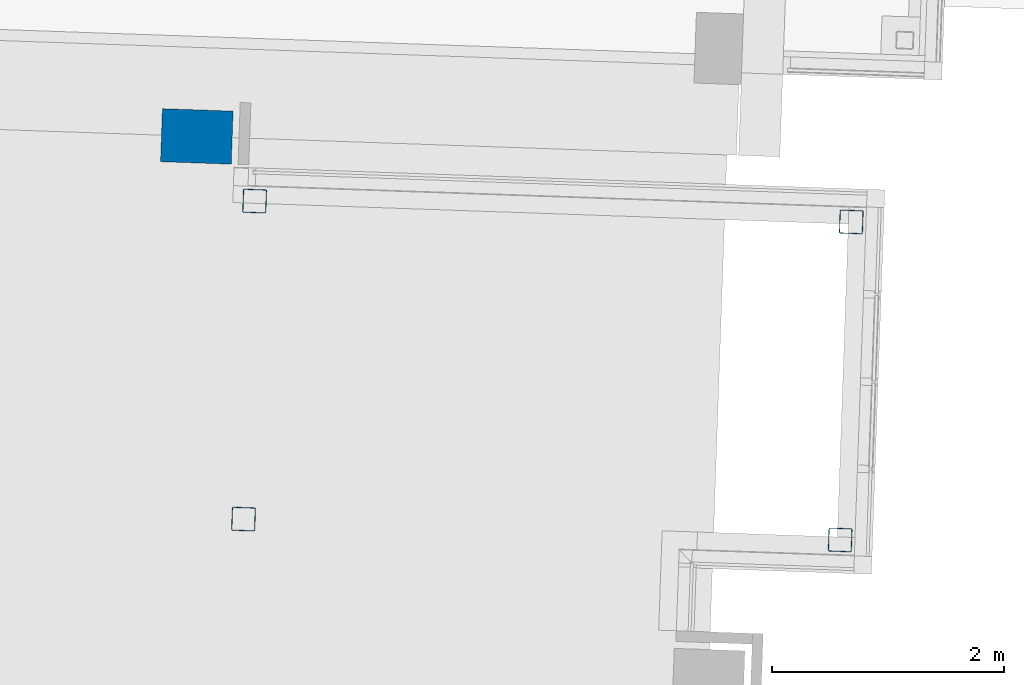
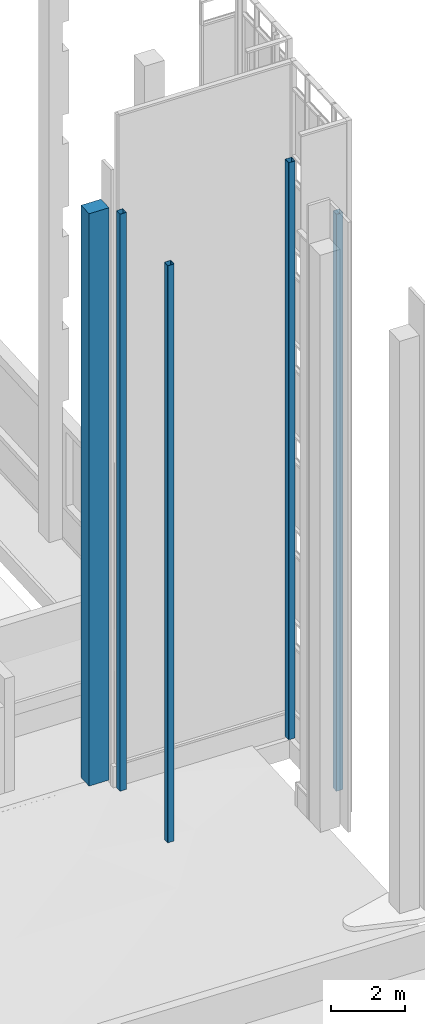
# One storey, part 6 of 44: 5 columns.
"""IFC2X3 building model written with IfcOpenShell, lengths in feet."""

from ifc_helpers import new_model, entity, si_unit, converted_unit, derived_unit, direction, frame, frame_2d, origin, origin_2d_with_axis, place, context, subcontext, project, spatial, polyline, circle_curve, parameter, trimmed, segment, composite_curve, rectangle, outline, extrude, source, transform, mapped, material, type_object, type_shapes, element, save


model = new_model("IFC2X3")

# Units and contexts
model_context = context("Model", 3, precision=0.0001, world=origin(), true_north=direction((0.999390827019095, 0.0348994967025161)))
body_context = subcontext(model_context, "Body", "Model", "MODEL_VIEW")
ifc_project = project(units=[converted_unit("LENGTHUNIT", "FOOT", entity("IfcRatioMeasure", 0.3048), si_unit("LENGTHUNIT", "METRE"), dimensions=[1, 0, 0, 0, 0, 0, 0]), converted_unit("AREAUNIT", "SQUARE FOOT", entity("IfcRatioMeasure", 0.09290304), si_unit("AREAUNIT", "SQUARE_METRE"), dimensions=[2, 0, 0, 0, 0, 0, 0]), converted_unit("VOLUMEUNIT", "CUBIC FOOT", entity("IfcRatioMeasure", 0.028316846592), si_unit("VOLUMEUNIT", "CUBIC_METRE"), dimensions=[3, 0, 0, 0, 0, 0, 0]), converted_unit("PLANEANGLEUNIT", "DEGREE", entity("IfcRatioMeasure", 0.0174532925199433), si_unit("PLANEANGLEUNIT", "RADIAN"), dimensions=[0, 0, 0, 0, 0, 0, 0]), si_unit("MASSUNIT", "GRAM", prefix="KILO"), si_unit("TIMEUNIT", "SECOND"), si_unit("FREQUENCYUNIT", "HERTZ"), si_unit("THERMODYNAMICTEMPERATUREUNIT", "DEGREE_CELSIUS"), derived_unit("THERMALTRANSMITTANCEUNIT", [(si_unit("MASSUNIT", "GRAM", prefix="KILO"), 1), (si_unit("THERMODYNAMICTEMPERATUREUNIT", "KELVIN"), -1), (si_unit("TIMEUNIT", "SECOND"), -3)]), derived_unit("VOLUMETRICFLOWRATEUNIT", [(si_unit("LENGTHUNIT", "METRE"), 3), (si_unit("TIMEUNIT", "SECOND"), -1)]), si_unit("ELECTRICCURRENTUNIT", "AMPERE"), si_unit("ELECTRICVOLTAGEUNIT", "VOLT"), si_unit("POWERUNIT", "WATT"), si_unit("FORCEUNIT", "NEWTON"), si_unit("ILLUMINANCEUNIT", "LUX"), si_unit("LUMINOUSFLUXUNIT", "LUMEN"), si_unit("LUMINOUSINTENSITYUNIT", "CANDELA"), derived_unit("USERDEFINED", [(si_unit("MASSUNIT", "GRAM", prefix="KILO"), -1), (si_unit("LENGTHUNIT", "METRE"), -2), (si_unit("TIMEUNIT", "SECOND"), 3), (si_unit("LUMINOUSFLUXUNIT", "LUMEN"), 1)]), derived_unit("LINEARVELOCITYUNIT", [(si_unit("LENGTHUNIT", "METRE"), 1), (si_unit("TIMEUNIT", "SECOND"), -1)]), si_unit("PRESSUREUNIT", "PASCAL"), derived_unit("USERDEFINED", [(si_unit("LENGTHUNIT", "METRE"), -2), (si_unit("MASSUNIT", "GRAM", prefix="KILO"), 1), (si_unit("TIMEUNIT", "SECOND"), -2)])], contexts=[model_context])

# Site, building, storey
site_placement = place(None, frame((892.518771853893, 322.38689265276, 0.00393700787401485), z_axis=(0.0, 0.0, 1.0), x_axis=(0.0348994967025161, 0.999390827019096, 0.0)))
site = spatial("IfcSite", under=ifc_project, at=site_placement, Name="Default", CompositionType="ELEMENT")
building_placement = place(site_placement, origin())
building = spatial("IfcBuilding", under=site, at=building_placement, CompositionType="ELEMENT")
storey_placement = place(building_placement, frame((0.0, 0.0, 544.75)))
storey = spatial("IfcBuildingStorey", under=building, at=storey_placement, Name="Exist Garage - Ground Level", CompositionType="ELEMENT", Elevation=544.75)

# Columns
ifc_material_1 = material(Name="Concrete - Cast-in-Place Concrete")
column_type_1 = type_object("IfcColumnType", Name="18 x 24", PredefinedType="COLUMN", material=ifc_material_1)
shared_shape_1 = source(origin(), body_context, "Body", "SweptSolid", [
    extrude(rectangle(XDim=2.0, YDim=1.5, at=origin_2d_with_axis()), frame((102.927296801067, 251.763182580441, 545.25), z_axis=(0.0, 0.0, 1.0), x_axis=(0.0, -1.0, 0.0)), (0.0, 0.0, 1.0), 61.75),
])
type_shapes(column_type_1, [shared_shape_1])
column_placement = place(storey_placement, frame((0.0, 0.0, -544.75)))
element("IfcColumn", 1, at=column_placement, inside=storey, type_object=column_type_1, material=ifc_material_1, Name="Concrete-Rectangular-Column:18 x 24", ObjectType="18 x 24", context=body_context, shape_type="MappedRepresentation", body=[
    mapped(shared_shape_1, transform((0.0, 0.0, 0.0), scale=1.0)),
])
ifc_material_2 = material(Name="Metal - Steel - ASTM A500 - Grade B - Rectangular and Square")
column_type_2 = type_object("IfcColumnType", Name="HSS8X8X1/4", PredefinedType="COLUMN", material=ifc_material_2)
shared_shape_2 = source(origin(), body_context, "Body", "SweptSolid", [
    extrude(outline(composite_curve([segment(polyline([(-0.294500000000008, -0.333333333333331), (0.2945, -0.333333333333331)]), True, "CONTINUOUS"), segment(trimmed(circle_curve(frame_2d((0.2945, -0.294499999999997), x_axis=(-1.0, 0.0)), 0.0388333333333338), [parameter(90.0000000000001)], [parameter(180.0)], True, "PARAMETER"), True, "CONTINUOUS"), segment(polyline([(0.333333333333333, -0.294499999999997), (0.333333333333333, 0.294500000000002)]), True, "CONTINUOUS"), segment(trimmed(circle_curve(frame_2d((0.294499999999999, 0.294500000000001), x_axis=(-1.0, 0.0)), 0.0388333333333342), [parameter(180.0)], [parameter(270.0)], True, "PARAMETER"), True, "CONTINUOUS"), segment(polyline([(0.294499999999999, 0.333333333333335), (-0.294499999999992, 0.333333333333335)]), True, "CONTINUOUS"), segment(trimmed(circle_curve(frame_2d((-0.294499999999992, 0.294499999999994), x_axis=(-1.0, 0.0)), 0.0388333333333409), [parameter(270.0)], [parameter(360.0)], True, "PARAMETER"), True, "CONTINUOUS"), segment(polyline([(-0.333333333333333, 0.294499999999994), (-0.333333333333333, -0.294500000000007)]), True, "CONTINUOUS"), segment(trimmed(circle_curve(frame_2d((-0.294500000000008, -0.294500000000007), x_axis=(-1.0, 0.0)), 0.0388333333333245), [parameter(360.0)], [parameter(89.9999999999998)], True, "PARAMETER"), True, "CONTINUOUS")], self_intersect=False), holes=[composite_curve([segment(trimmed(circle_curve(frame_2d((-0.294500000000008, -0.294500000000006), x_axis=(-1.0, 0.0)), 0.0194166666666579), [parameter(0.0)], [parameter(89.9999999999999)], True, "PARAMETER"), False, "CONTINUOUS"), segment(polyline([(-0.313916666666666, -0.294500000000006), (-0.313916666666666, 0.294500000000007)]), True, "CONTINUOUS"), segment(trimmed(circle_curve(frame_2d((-0.294500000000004, 0.294500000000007), x_axis=(-1.0, 0.0)), 0.0194166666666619), [parameter(270.0)], [parameter(0.0)], True, "PARAMETER"), False, "CONTINUOUS"), segment(polyline([(-0.294500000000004, 0.313916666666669), (0.294499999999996, 0.313916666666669)]), True, "CONTINUOUS"), segment(trimmed(circle_curve(frame_2d((0.294499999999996, 0.294499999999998), x_axis=(-1.0, 0.0)), 0.0194166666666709), [parameter(180.0)], [parameter(270.0)], True, "PARAMETER"), False, "CONTINUOUS"), segment(polyline([(0.313916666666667, 0.294499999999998), (0.313916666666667, -0.294499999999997)]), True, "CONTINUOUS"), segment(trimmed(circle_curve(frame_2d((0.2945, -0.294499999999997), x_axis=(-1.0, 0.0)), 0.0194166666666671), [parameter(90.0000000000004)], [parameter(180.0)], True, "PARAMETER"), False, "CONTINUOUS"), segment(polyline([(0.2945, -0.313916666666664), (-0.294500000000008, -0.313916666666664)]), True, "CONTINUOUS")], self_intersect=False)]), frame((0.0, 0.0, 544.75), z_axis=(0.0, 0.0, 1.0), x_axis=(-1.0, 0.0, 0.0)), (0.0, 0.0, 1.0), 62.25),
])
type_shapes(column_type_2, [shared_shape_2])
for number, where, name in (
    (2, (92.1564634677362, 233.18062014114, -544.75), "HSS-Hollow Structural Section-Column:HSS8X8X1/4"),
    (3, (101.156463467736, 233.18062014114, -544.75), "HSS-Hollow Structural Section-Column:HSS8X8X1/4"),
    (4, (92.1564634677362, 250.065265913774, -544.75), "HSS-Hollow Structural Section-Column:HSS8X8X1/4"),
    (5, (101.156463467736, 250.065265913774, -544.75), "HSS-Hollow Structural Section-Column:HSS8X8X1/4"),
):
    element("IfcColumn", number, at=place(storey_placement, frame(where)), inside=storey, type_object=column_type_2, material=ifc_material_2, Name=name, ObjectType="HSS8X8X1/4", context=body_context, shape_type="MappedRepresentation", body=[
        mapped(shared_shape_2, transform((0.0, 0.0, 0.0), scale=1.0)),
    ])

save(model, "model.ifc")
